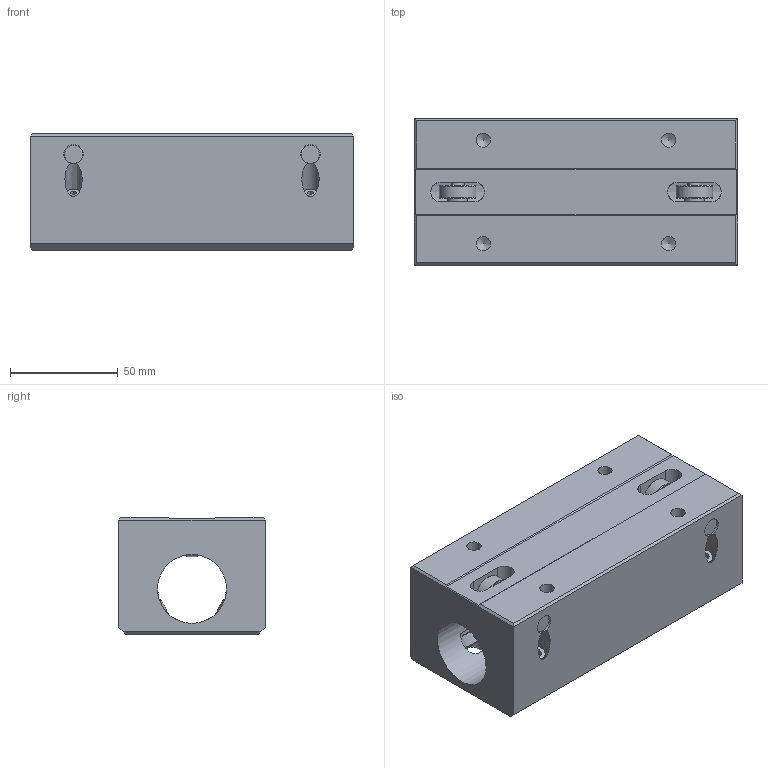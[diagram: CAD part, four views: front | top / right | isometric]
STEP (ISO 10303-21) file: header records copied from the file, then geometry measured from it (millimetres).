
FILE_DESCRIPTION((''),'2;1');
FILE_NAME('D:\製品 (図面)\カタログ用3D\リニアガイド関連\STEP形式\SLHW\SLHW30.stp','2010-06-02T17:08:09',('Tsuchiya'),(''),'Autodesk Inventor 10','Autodesk Inventor 10','');
FILE_SCHEMA(('AUTOMOTIVE_DESIGN { 1 0 10303 214 1 1 1 1 }'));
Length unit declared in the file: millimetre
Products named in the file (1): SLHW30
Bounding box: 150 x 68 x 54 mm (x, y, z)
Volume: 407425.6 mm3; surface area: 68069 mm2
Topology: 1 solids, 1 shells, 175 faces, 409 edges, 264 vertices
Faces by surface type: bspline 72, plane 56, cylinder 24, cone 20, torus 3
Full cylindrical faces by diameter (mm): 6 x3, 6.647 x2, 7 x3, 8 x3, 9 x4, 17 x3, 19 x2, 32 x1
Entity records: 5296 total; most frequent: CARTESIAN_POINT 2031, ORIENTED_EDGE 600, DIRECTION 578, EDGE_CURVE 300, EDGE_LOOP 296, VERTEX_POINT 230, AXIS2_PLACEMENT_3D 220, FACE_OUTER_BOUND 175
